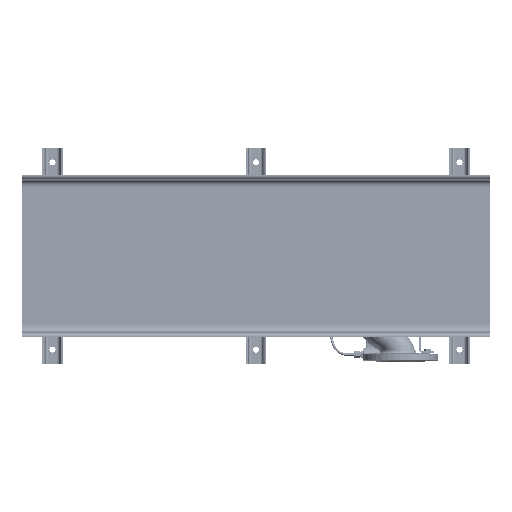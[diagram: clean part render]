
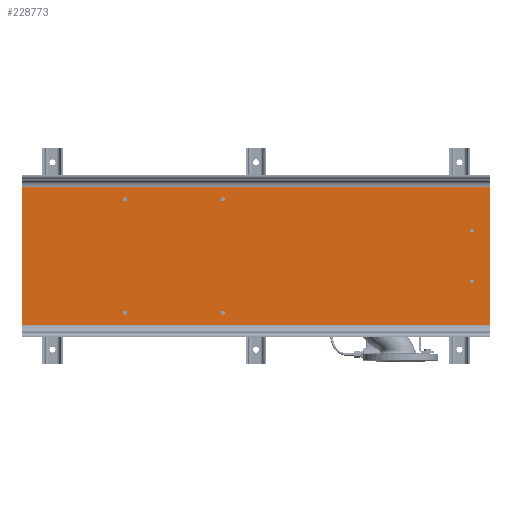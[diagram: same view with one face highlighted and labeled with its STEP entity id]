
A CAD part, front view. The second image highlights one B-rep face of the part: STEP entity #228773.
In plain terms, the highlighted planar face has unit normal (0, -1, 0) as drawn and (1, 0, 0) by its records, which use the part's own axes.
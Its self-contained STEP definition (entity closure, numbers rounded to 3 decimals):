
#225786=DIRECTION('',(0.,0.,1.));
#225787=VECTOR('',#225786,340.96);
#225788=CARTESIAN_POINT('',(10.5,500.,-170.48));
#225789=LINE('',#225788,#225787);
#226380=DIRECTION('',(0.,1.,0.));
#226381=VECTOR('',#226380,1150.);
#226382=CARTESIAN_POINT('',(10.5,-650.,-170.48));
#226383=LINE('',#226382,#226381);
#226388=DIRECTION('',(0.,0.,1.));
#226389=VECTOR('',#226388,340.96);
#226390=CARTESIAN_POINT('',(10.5,-650.,-170.48));
#226391=LINE('',#226390,#226389);
#226392=CARTESIAN_POINT('',(10.5,-605.,62.5));
#226393=DIRECTION('',(1.,0.,0.));
#226394=DIRECTION('',(0.,-1.,0.));
#226395=AXIS2_PLACEMENT_3D('',#226392,#226393,#226394);
#226397=CARTESIAN_POINT('',(10.5,-605.,62.5));
#226398=DIRECTION('',(1.,0.,0.));
#226399=DIRECTION('',(0.,1.,0.));
#226400=AXIS2_PLACEMENT_3D('',#226397,#226398,#226399);
#226402=CARTESIAN_POINT('',(10.5,6.,-139.5));
#226403=DIRECTION('',(1.,0.,0.));
#226404=DIRECTION('',(0.,-1.,0.));
#226405=AXIS2_PLACEMENT_3D('',#226402,#226403,#226404);
#226407=CARTESIAN_POINT('',(10.5,6.,-139.5));
#226408=DIRECTION('',(1.,0.,0.));
#226409=DIRECTION('',(0.,1.,0.));
#226410=AXIS2_PLACEMENT_3D('',#226407,#226408,#226409);
#226412=CARTESIAN_POINT('',(10.5,247.,-139.5));
#226413=DIRECTION('',(1.,0.,0.));
#226414=DIRECTION('',(0.,-1.,0.));
#226415=AXIS2_PLACEMENT_3D('',#226412,#226413,#226414);
#226417=CARTESIAN_POINT('',(10.5,247.,-139.5));
#226418=DIRECTION('',(1.,0.,0.));
#226419=DIRECTION('',(0.,1.,0.));
#226420=AXIS2_PLACEMENT_3D('',#226417,#226418,#226419);
#226422=CARTESIAN_POINT('',(10.5,6.,139.5));
#226423=DIRECTION('',(1.,0.,0.));
#226424=DIRECTION('',(0.,-1.,0.));
#226425=AXIS2_PLACEMENT_3D('',#226422,#226423,#226424);
#226427=CARTESIAN_POINT('',(10.5,6.,139.5));
#226428=DIRECTION('',(1.,0.,0.));
#226429=DIRECTION('',(0.,1.,0.));
#226430=AXIS2_PLACEMENT_3D('',#226427,#226428,#226429);
#226432=CARTESIAN_POINT('',(10.5,247.,139.5));
#226433=DIRECTION('',(1.,0.,0.));
#226434=DIRECTION('',(0.,-1.,0.));
#226435=AXIS2_PLACEMENT_3D('',#226432,#226433,#226434);
#226437=CARTESIAN_POINT('',(10.5,247.,139.5));
#226438=DIRECTION('',(1.,0.,0.));
#226439=DIRECTION('',(0.,1.,0.));
#226440=AXIS2_PLACEMENT_3D('',#226437,#226438,#226439);
#226442=CARTESIAN_POINT('',(10.5,-605.,-62.5));
#226443=DIRECTION('',(1.,0.,0.));
#226444=DIRECTION('',(0.,1.,0.));
#226445=AXIS2_PLACEMENT_3D('',#226442,#226443,#226444);
#226447=CARTESIAN_POINT('',(10.5,-605.,-62.5));
#226448=DIRECTION('',(1.,0.,0.));
#226449=DIRECTION('',(0.,-1.,0.));
#226450=AXIS2_PLACEMENT_3D('',#226447,#226448,#226449);
#226456=DIRECTION('',(0.,-1.,0.));
#226457=VECTOR('',#226456,1150.);
#226458=CARTESIAN_POINT('',(10.5,500.,170.48));
#226459=LINE('',#226458,#226457);
#227042=CARTESIAN_POINT('',(10.5,-650.,170.48));
#227043=VERTEX_POINT('',#227042);
#227044=CARTESIAN_POINT('',(10.5,-650.,-170.48));
#227045=VERTEX_POINT('',#227044);
#227240=CARTESIAN_POINT('',(10.5,500.,-170.48));
#227241=VERTEX_POINT('',#227240);
#227242=CARTESIAN_POINT('',(10.5,500.,170.48));
#227243=VERTEX_POINT('',#227242);
#227440=CARTESIAN_POINT('',(10.5,-610.1,62.5));
#227441=CARTESIAN_POINT('',(10.5,-599.9,62.5));
#227442=VERTEX_POINT('',#227440);
#227443=VERTEX_POINT('',#227441);
#227444=CARTESIAN_POINT('',(10.5,0.9,-139.5));
#227445=CARTESIAN_POINT('',(10.5,11.1,-139.5));
#227446=VERTEX_POINT('',#227444);
#227447=VERTEX_POINT('',#227445);
#227448=CARTESIAN_POINT('',(10.5,241.9,-139.5));
#227449=CARTESIAN_POINT('',(10.5,252.1,-139.5));
#227450=VERTEX_POINT('',#227448);
#227451=VERTEX_POINT('',#227449);
#227452=CARTESIAN_POINT('',(10.5,0.9,139.5));
#227453=CARTESIAN_POINT('',(10.5,11.1,139.5));
#227454=VERTEX_POINT('',#227452);
#227455=VERTEX_POINT('',#227453);
#227456=CARTESIAN_POINT('',(10.5,241.9,139.5));
#227457=CARTESIAN_POINT('',(10.5,252.1,139.5));
#227458=VERTEX_POINT('',#227456);
#227459=VERTEX_POINT('',#227457);
#227460=CARTESIAN_POINT('',(10.5,-599.9,-62.5));
#227461=CARTESIAN_POINT('',(10.5,-610.1,-62.5));
#227462=VERTEX_POINT('',#227460);
#227463=VERTEX_POINT('',#227461);
#228725=CARTESIAN_POINT('',(10.5,-650.,170.48));
#228726=DIRECTION('',(1.,0.,0.));
#228727=DIRECTION('',(0.,0.,-1.));
#228728=AXIS2_PLACEMENT_3D('',#228725,#228726,#228727);
#228729=PLANE('',#228728);
#228730=ORIENTED_EDGE('',*,*,#227527,.T.);
#228732=ORIENTED_EDGE('',*,*,#228731,.F.);
#228733=ORIENTED_EDGE('',*,*,#227879,.F.);
#228734=ORIENTED_EDGE('',*,*,#228718,.F.);
#228735=EDGE_LOOP('',(#228730,#228732,#228733,#228734));
#228736=FACE_OUTER_BOUND('',#228735,.F.);
#228738=ORIENTED_EDGE('',*,*,#228737,.T.);
#228740=ORIENTED_EDGE('',*,*,#228739,.T.);
#228741=EDGE_LOOP('',(#228738,#228740));
#228742=FACE_BOUND('',#228741,.F.);
#228744=ORIENTED_EDGE('',*,*,#228743,.T.);
#228746=ORIENTED_EDGE('',*,*,#228745,.T.);
#228747=EDGE_LOOP('',(#228744,#228746));
#228748=FACE_BOUND('',#228747,.F.);
#228750=ORIENTED_EDGE('',*,*,#228749,.T.);
#228752=ORIENTED_EDGE('',*,*,#228751,.T.);
#228753=EDGE_LOOP('',(#228750,#228752));
#228754=FACE_BOUND('',#228753,.F.);
#228756=ORIENTED_EDGE('',*,*,#228755,.T.);
#228758=ORIENTED_EDGE('',*,*,#228757,.T.);
#228759=EDGE_LOOP('',(#228756,#228758));
#228760=FACE_BOUND('',#228759,.F.);
#228762=ORIENTED_EDGE('',*,*,#228761,.T.);
#228764=ORIENTED_EDGE('',*,*,#228763,.T.);
#228765=EDGE_LOOP('',(#228762,#228764));
#228766=FACE_BOUND('',#228765,.F.);
#228768=ORIENTED_EDGE('',*,*,#228767,.T.);
#228770=ORIENTED_EDGE('',*,*,#228769,.T.);
#228771=EDGE_LOOP('',(#228768,#228770));
#228772=FACE_BOUND('',#228771,.F.);
#228773=ADVANCED_FACE('',(#228736,#228742,#228748,#228754,#228760,#228766,
#228772),#228729,.T.);
#226396=CIRCLE('',#226395,5.1);
#226401=CIRCLE('',#226400,5.1);
#226406=CIRCLE('',#226405,5.1);
#226411=CIRCLE('',#226410,5.1);
#226416=CIRCLE('',#226415,5.1);
#226421=CIRCLE('',#226420,5.1);
#226426=CIRCLE('',#226425,5.1);
#226431=CIRCLE('',#226430,5.1);
#226436=CIRCLE('',#226435,5.1);
#226441=CIRCLE('',#226440,5.1);
#226446=CIRCLE('',#226445,5.1);
#226451=CIRCLE('',#226450,5.1);
#227527=EDGE_CURVE('',#227045,#227043,#226391,.T.);
#227879=EDGE_CURVE('',#227241,#227243,#225789,.T.);
#228718=EDGE_CURVE('',#227045,#227241,#226383,.T.);
#228731=EDGE_CURVE('',#227243,#227043,#226459,.T.);
#228737=EDGE_CURVE('',#227442,#227443,#226396,.T.);
#228739=EDGE_CURVE('',#227443,#227442,#226401,.T.);
#228743=EDGE_CURVE('',#227446,#227447,#226406,.T.);
#228745=EDGE_CURVE('',#227447,#227446,#226411,.T.);
#228749=EDGE_CURVE('',#227450,#227451,#226416,.T.);
#228751=EDGE_CURVE('',#227451,#227450,#226421,.T.);
#228755=EDGE_CURVE('',#227454,#227455,#226426,.T.);
#228757=EDGE_CURVE('',#227455,#227454,#226431,.T.);
#228761=EDGE_CURVE('',#227458,#227459,#226436,.T.);
#228763=EDGE_CURVE('',#227459,#227458,#226441,.T.);
#228767=EDGE_CURVE('',#227462,#227463,#226446,.T.);
#228769=EDGE_CURVE('',#227463,#227462,#226451,.T.);
